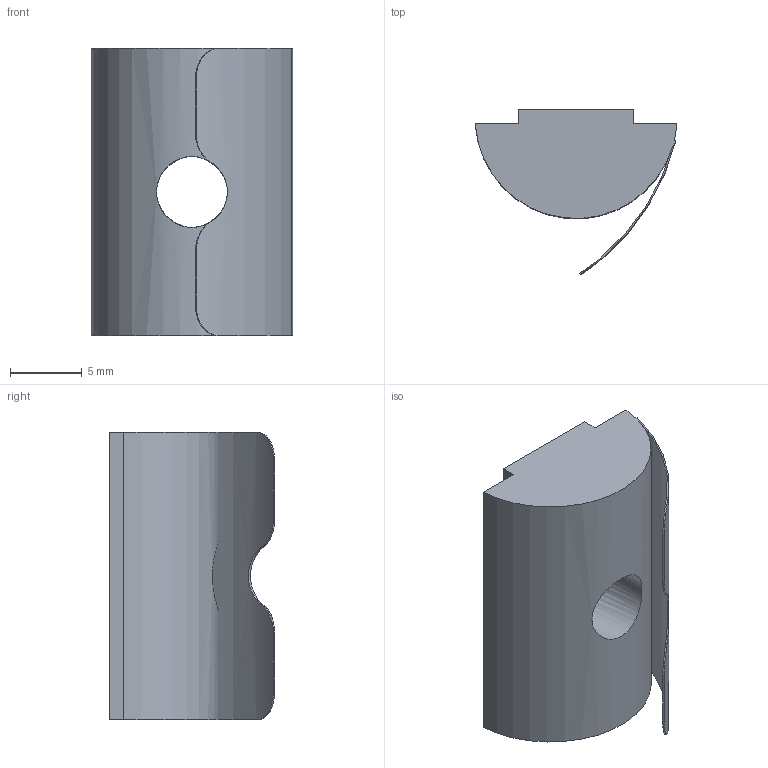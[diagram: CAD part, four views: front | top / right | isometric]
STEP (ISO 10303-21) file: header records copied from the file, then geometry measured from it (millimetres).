
FILE_DESCRIPTION((''),'2;1');
FILE_NAME('E:\catalogue and flyer\Profile catalogue 2015\Accessories JE info\Accessories-JE step file 31MAr16\JE-SN6-8_4040.stp','2016-03-31T16:51:27',('h029'),(''),'Autodesk Inventor 11','Autodesk Inventor 11','');
FILE_SCHEMA(('AUTOMOTIVE_DESIGN { 1 0 10303 214 1 1 1 1 }'));
Length unit declared in the file: millimetre
Products named in the file (1): JE-SN6-8_4040
Bounding box: 14 x 11.49 x 20 mm (x, y, z)
Volume: 1468.2 mm3; surface area: 1405.2 mm2
Topology: 1 solids, 1 shells, 21 faces, 57 edges, 38 vertices
Faces by surface type: plane 10, cylinder 6, bspline 4, cone 1
Entity records: 924 total; most frequent: CARTESIAN_POINT 400, ORIENTED_EDGE 108, DIRECTION 93, EDGE_CURVE 54, VERTEX_POINT 37, AXIS2_PLACEMENT_3D 32, VECTOR 29, LINE 29
